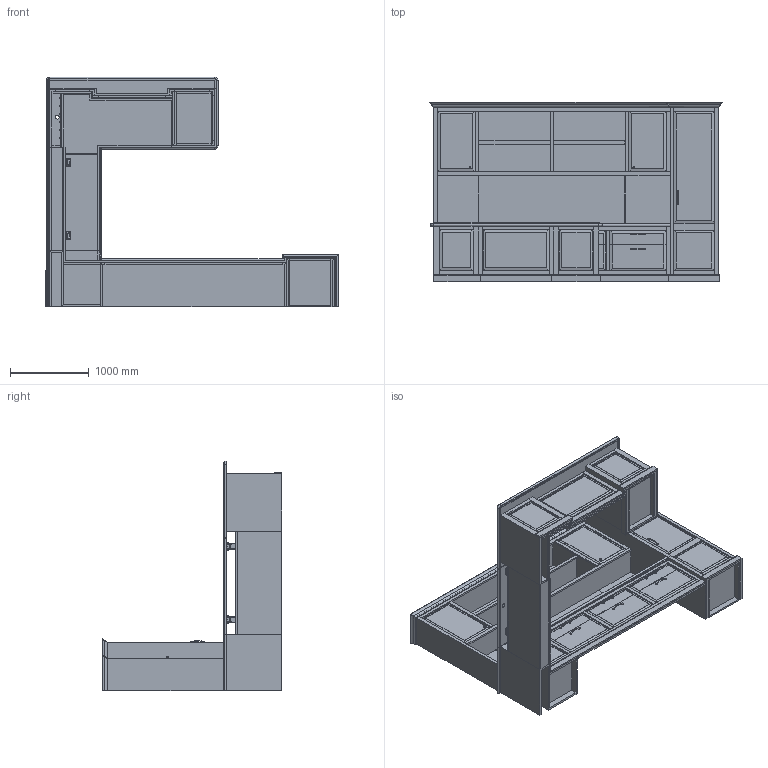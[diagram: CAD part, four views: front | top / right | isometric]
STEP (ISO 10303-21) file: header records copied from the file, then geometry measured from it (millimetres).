
FILE_DESCRIPTION(/* description */ ('','CAx-IF Rec.Pracs.---Representation and Presentation of Product Manufacturing Information (PMI)---4.0---2014-10-13'),/* implementation_level */ '2;1');
FILE_NAME(/* name */ 'PRIVATE OFFICE_CAMBRIDGE 1.stp',/* time_stamp */ '2024-12-08T11:12:56-05:00',/* author */ ('mbowman'),/* organization */ (''),/* preprocessor_version */ 'ST-DEVELOPER v19.2',/* originating_system */ 'Autodesk Inventor 2023',/* authorisation */ '');
FILE_SCHEMA (('AP242_MANAGED_MODEL_BASED_3D_ENGINEERING_MIM_LF { 1 0 10303 442 1 1 4 }'));
Products named in the file (18): CCN^BRIGHTON_L1 U OFFICE-SOLID ASSEMBLY; CCN^BRIGHTON_L1 24x48 RT HAT BRIDGE-SOLID ASSEMBLY; CCN^BRIGHTON_L1 24x48 RT HAT BRIDGE-PARTS SOLID; dl5nc_without_bracket_STEP; dl5nc_without_bracket_STEP_1; DL5NC_OP; STANDART_MOTORHUS1_DL5; CCN^BRIGHTON_L1 24x48 RT HAT BRIDGE-WORKSURFACE SOLID; CCN^BRIGHTON_L1 36x84 LT FIXED DESK-SINGLE PED PARTS SOLID; CCN^BRIGHTON_L1 36x84 LT FIXED DESK-SINGLE PED PARTS SOLID_1; CCN^BRIGHTON_L1 24x24 RT WARDROBE-PARTS SOLID; CCN^BRIGHTON_L1 24x24 RT WARDROBE-PARTS SOLID_1; CCN^BRIGHTON_L1 HIGH RISE-4 DOOR SOLID ASSEMBLY; CCN^BRIGHTON_HIGH RISE-4 DOOR OPEN SHELF PARTS SOLID; CCN^BRIGHTON_36x84 TABLE DESK-PULL; CCN^BRIGHTON_L1 RT CREDENZA-PARTS SOLID; CCN^BRIGHTON_L1 RT CREDENZA-PARTS SOLID_1; ART DECCO^GLAM-HAFELE 110_34_286
Assembly tree (29 placements, depth 4):
  CCN^BRIGHTON_L1 U OFFICE-SOLID ASSEMBLY
    CCN^BRIGHTON_L1 24x48 RT HAT BRIDGE-SOLID ASSEMBLY
      CCN^BRIGHTON_L1 24x48 RT HAT BRIDGE-PARTS SOLID
      dl5nc_without_bracket_STEP
        DL5NC_OP
        STANDART_MOTORHUS1_DL5
      dl5nc_without_bracket_STEP_1
        DL5NC_OP
        STANDART_MOTORHUS1_DL5
      CCN^BRIGHTON_L1 24x48 RT HAT BRIDGE-WORKSURFACE SOLID
    CCN^BRIGHTON_L1 36x84 LT FIXED DESK-SINGLE PED PARTS SOLID
      ART DECCO^GLAM-HAFELE 110_34_286  x2
      CCN^BRIGHTON_L1 36x84 LT FIXED DESK-SINGLE PED PARTS SOLID_1
    CCN^BRIGHTON_L1 24x24 RT WARDROBE-PARTS SOLID
      CCN^BRIGHTON_L1 24x24 RT WARDROBE-PARTS SOLID_1
      ART DECCO^GLAM-HAFELE 110_34_286
    CCN^BRIGHTON_L1 HIGH RISE-4 DOOR SOLID ASSEMBLY
      CCN^BRIGHTON_HIGH RISE-4 DOOR OPEN SHELF PARTS SOLID
      CCN^BRIGHTON_36x84 TABLE DESK-PULL  x2
    CCN^BRIGHTON_L1 RT CREDENZA-PARTS SOLID
      CCN^BRIGHTON_L1 RT CREDENZA-PARTS SOLID_1
      ART DECCO^GLAM-HAFELE 110_34_286  x7
Bounding box: 3708.4 x 2279.65 x 2914.63 mm (x, y, z)
Volume: 991746421.9 mm3; surface area: 93987644.7 mm2
Topology: 139 solids, 179 shells, 3635 faces, 8855 edges, 5614 vertices
Faces by surface type: plane 2276, cylinder 1057, torus 183, bspline 76, sphere 24, cone 19
Full cylindrical faces by diameter (mm): 4.6 x4, 5 x68, 5.3 x12, 5.5 x4, 8 x4, 8.202 x40, 21 x2, 25 x2, 48.26 x2
Entity records: 80227 total; most frequent: CARTESIAN_POINT 19218, DIRECTION 11705, ORIENTED_EDGE 10974, EDGE_CURVE 5487, LINE 4033, VECTOR 4033, AXIS2_PLACEMENT_3D 3836, VERTEX_POINT 3494
